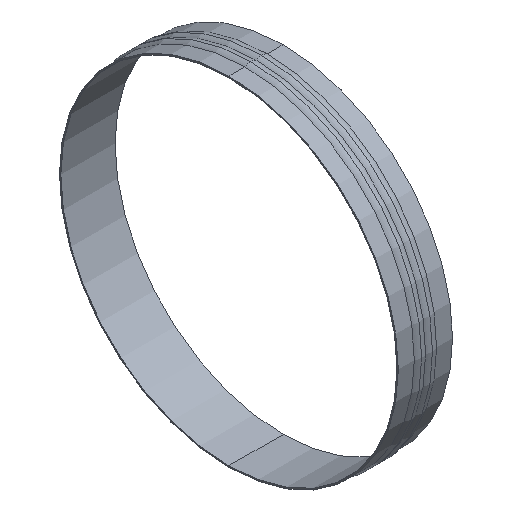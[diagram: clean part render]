
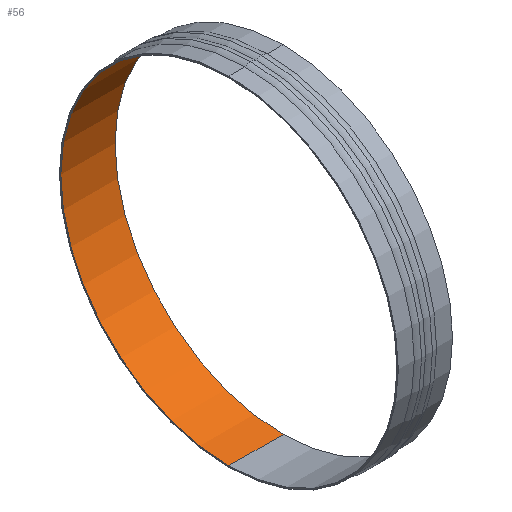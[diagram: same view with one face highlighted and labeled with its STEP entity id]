
A CAD part, isometric view. The second image highlights one B-rep face of the part: STEP entity #56.
In plain terms, the highlighted cylindrical face has radius 496 mm (diameter 992 mm), a partial arc.
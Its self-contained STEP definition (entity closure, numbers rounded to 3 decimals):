
#56=ADVANCED_FACE('',(#113),#114,.F.);
#113=FACE_OUTER_BOUND('',#170,.T.);
#114=CYLINDRICAL_SURFACE('',#171,496.0);
#170=EDGE_LOOP('',(#261,#262,#263,#264));
#171=AXIS2_PLACEMENT_3D('',#265,#266,#267);
#261=ORIENTED_EDGE('',*,*,#356,.F.);
#262=ORIENTED_EDGE('',*,*,#357,.F.);
#263=ORIENTED_EDGE('',*,*,#358,.F.);
#264=ORIENTED_EDGE('',*,*,#359,.F.);
#265=CARTESIAN_POINT('',(0.0,0.0,0.0));
#266=DIRECTION('',(1.0,0.0,0.0));
#267=DIRECTION('',(0.0,0.0,-1.0));
#356=EDGE_CURVE('',#418,#419,#420,.T.);
#357=EDGE_CURVE('',#421,#418,#422,.T.);
#358=EDGE_CURVE('',#423,#421,#424,.T.);
#359=EDGE_CURVE('',#419,#423,#425,.T.);
#418=VERTEX_POINT('',#488);
#419=VERTEX_POINT('',#489);
#420=LINE('',#490,#491);
#421=VERTEX_POINT('',#492);
#422=CIRCLE('',#493,496.0);
#423=VERTEX_POINT('',#494);
#424=LINE('',#495,#496);
#425=CIRCLE('',#497,496.0);
#488=CARTESIAN_POINT('',(80.0,0.,-496.0));
#489=CARTESIAN_POINT('',(-80.0,0.,-496.0));
#490=CARTESIAN_POINT('',(0.0,0.,-496.0));
#491=VECTOR('',#571,1.0);
#492=CARTESIAN_POINT('',(80.0,0.,496.0));
#493=AXIS2_PLACEMENT_3D('',#572,#573,#574);
#494=CARTESIAN_POINT('',(-80.0,0.,496.0));
#495=CARTESIAN_POINT('',(0.0,0.,496.0));
#496=VECTOR('',#575,1.0);
#497=AXIS2_PLACEMENT_3D('',#576,#577,#578);
#571=DIRECTION('',(-1.0,0.0,0.0));
#572=CARTESIAN_POINT('',(80.0,0.0,0.0));
#573=DIRECTION('',(-1.0,-0.0,-0.0));
#574=DIRECTION('',(0.0,0.0,-1.0));
#575=DIRECTION('',(1.0,0.0,0.0));
#576=CARTESIAN_POINT('',(-80.0,0.0,0.0));
#577=DIRECTION('',(1.0,0.0,0.0));
#578=DIRECTION('',(0.0,0.0,-1.0));
